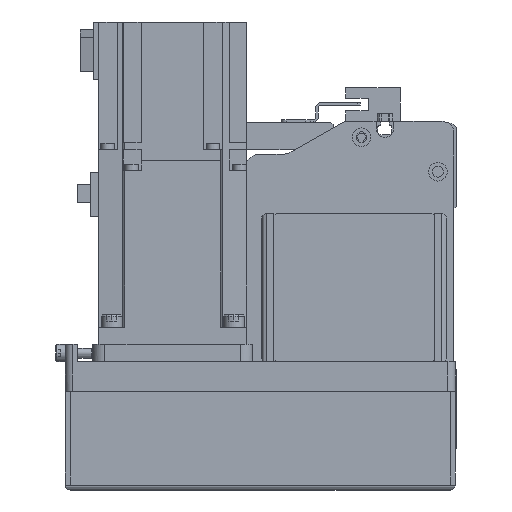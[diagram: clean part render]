
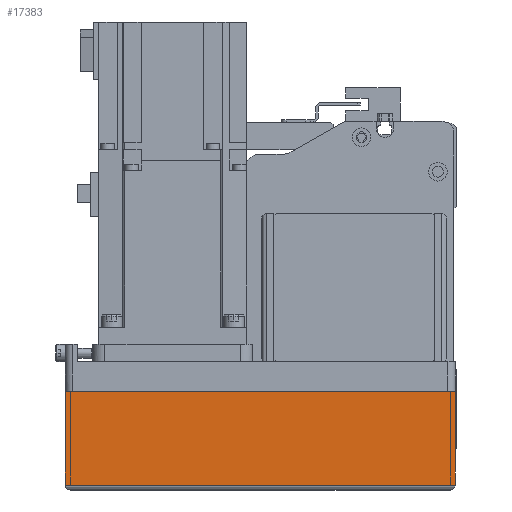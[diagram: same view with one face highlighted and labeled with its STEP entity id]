
A CAD part, left-side view. The second image highlights one B-rep face of the part: STEP entity #17383.
In plain terms, the highlighted planar face has unit normal (-1, 0, 0) as drawn and (0, -1, 0) by its records, which use the part's own axes.
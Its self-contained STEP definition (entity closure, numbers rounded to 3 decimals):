
#2724=ORIENTED_EDGE('',*,*,#6979,.F.);
#2725=ORIENTED_EDGE('',*,*,#6961,.F.);
#2726=ORIENTED_EDGE('',*,*,#6996,.T.);
#2727=ORIENTED_EDGE('',*,*,#7051,.T.);
#6961=EDGE_CURVE('',#9279,#9280,#11053,.T.);
#6979=EDGE_CURVE('',#9280,#9296,#11071,.T.);
#6996=EDGE_CURVE('',#9279,#9306,#11084,.T.);
#7051=EDGE_CURVE('',#9306,#9296,#11112,.T.);
#9279=VERTEX_POINT('',#26668);
#9280=VERTEX_POINT('',#26669);
#9296=VERTEX_POINT('',#26706);
#9306=VERTEX_POINT('',#26736);
#11053=LINE('',#26667,#12673);
#11071=LINE('',#26705,#12691);
#11084=LINE('',#26737,#12704);
#11112=LINE('',#26835,#12732);
#12673=VECTOR('',#21347,1000.);
#12691=VECTOR('',#21371,1000.);
#12704=VECTOR('',#21400,1000.);
#12732=VECTOR('',#21528,1000.);
#14181=EDGE_LOOP('',(#2724,#2725,#2726,#2727));
#15501=FACE_BOUND('',#14181,.T.);
#16648=PLANE('',#18652);
#17383=ADVANCED_FACE('',(#15501),#16648,.T.);
#18652=AXIS2_PLACEMENT_3D('',#26836,#21529,#21530);
#21347=DIRECTION('',(1.,0.,0.));
#21371=DIRECTION('',(0.,0.,-1.));
#21400=DIRECTION('',(0.,0.,-1.));
#21528=DIRECTION('',(1.,0.,0.));
#21529=DIRECTION('',(0.,-1.,0.));
#21530=DIRECTION('',(0.,0.,-1.));
#26667=CARTESIAN_POINT('',(-158.,-39.,-12.1));
#26668=CARTESIAN_POINT('',(-158.,-39.,-12.1));
#26669=CARTESIAN_POINT('',(0.,-39.,-12.1));
#26705=CARTESIAN_POINT('',(0.,-39.,-12.1));
#26706=CARTESIAN_POINT('',(0.,-39.,-50.));
#26736=CARTESIAN_POINT('',(-158.,-39.,-50.));
#26737=CARTESIAN_POINT('',(-158.,-39.,-12.1));
#26835=CARTESIAN_POINT('',(-158.,-39.,-50.));
#26836=CARTESIAN_POINT('',(-158.,-39.,-12.1));
